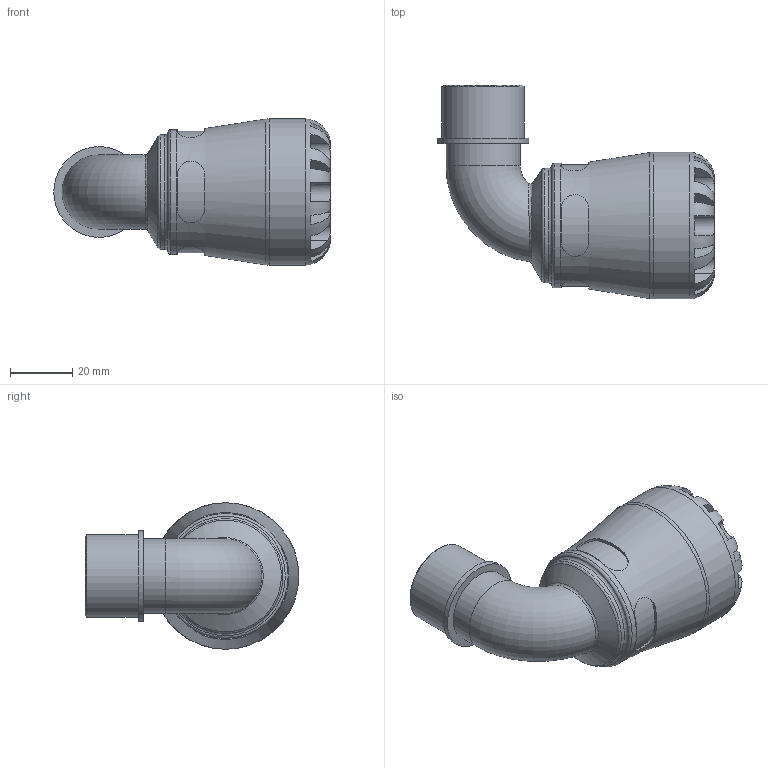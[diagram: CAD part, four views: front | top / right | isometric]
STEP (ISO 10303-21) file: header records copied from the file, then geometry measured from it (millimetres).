
FILE_DESCRIPTION(/* description */ ('PLASSON 90° ELBOW WITH THREADED MALE OFFTAKE 25X3/4" SERIES 1'),/* implementation_level */ '2;1');
FILE_NAME(/* name */ 'C:\Dropbox\KIMPROJECTS-Inventor\99-16-3568-Processing\S1\27.01.19\1085\108500025007_198500025007.ipt.stp',/* time_stamp */ '2019-01-27T09:13:31+02:00',/* author */ ('KIM'),/* organization */ (''),/* preprocessor_version */ 'ST-DEVELOPER v15.6',/* originating_system */ 'Autodesk Inventor 2015',/* authorisation */ '');
FILE_SCHEMA (('AUTOMOTIVE_DESIGN { 1 0 10303 214 3 1 1 }'));
Length unit declared in the file: millimetre
Products named in the file (1): 108500025007_198500025007
Bounding box: 88.54 x 68.5 x 47 mm (x, y, z)
Volume: 65703.1 mm3; surface area: 22617.1 mm2
Topology: 1 solids, 1 shells, 110 faces, 269 edges, 167 vertices
Faces by surface type: plane 61, cylinder 37, torus 7, bspline 3, cone 2
Full cylindrical faces by diameter (mm): 18.509 x2, 23.797 x1, 25 x1, 26.441 x1, 29.085 x1, 36.66 x1, 39.95 x1, 47 x1
Entity records: 4305 total; most frequent: CARTESIAN_POINT 1765, ORIENTED_EDGE 488, DIRECTION 487, EDGE_CURVE 244, AXIS2_PLACEMENT_3D 203, VERTEX_POINT 161, EDGE_LOOP 137, STYLED_ITEM 111
